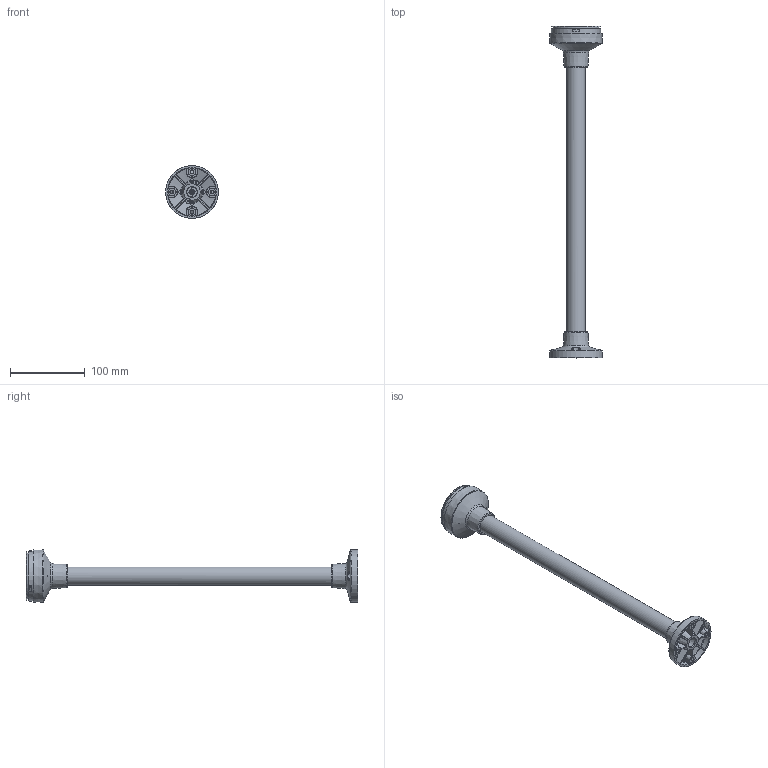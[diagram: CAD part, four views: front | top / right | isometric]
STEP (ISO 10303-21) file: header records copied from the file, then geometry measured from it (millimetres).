
FILE_DESCRIPTION(/* description */ (''),/* implementation_level */ '2;1');
FILE_NAME(/* name */ '3DCAD_A7_MP1_400.stp',/* time_stamp */ '2019-08-26T13:42:34+02:00',/* author */ ('CC2'),/* organization */ ('Leuze electronic'),/* preprocessor_version */ 'ST-DEVELOPER v16',/* originating_system */ 'SIEMENS PLM Software NX 11.0',/* authorisation */ '');
FILE_SCHEMA (('AUTOMOTIVE_DESIGN { 1 0 10303 214 3 1 1 1 }'));
Length unit declared in the file: millimetre
Products named in the file (1): 19-103010_00_1-3DCAD_A7_MP1_400
Bounding box: 70.6 x 445.2 x 70.6 mm (x, y, z)
Volume: 114715.9 mm3; surface area: 113967.3 mm2
Topology: 1 solids, 5 shells, 1353 faces, 3643 edges, 2313 vertices
Faces by surface type: plane 747, cylinder 263, bspline 138, cone 91, torus 86, sphere 28
Full cylindrical faces by diameter (mm): 0.568 x10, 0.75 x6, 1 x6, 2.4 x5, 3.2 x3, 5.5 x3, 12 x4, 22.8 x1, 25.4 x1, 62.5 x1, 65.1 x1, 66 x1
Entity records: 51861 total; most frequent: CARTESIAN_POINT 19226, ORIENTED_EDGE 7020, DIRECTION 6412, EDGE_CURVE 3510, VERTEX_POINT 2274, AXIS2_PLACEMENT_3D 2250, LINE 1912, VECTOR 1912
